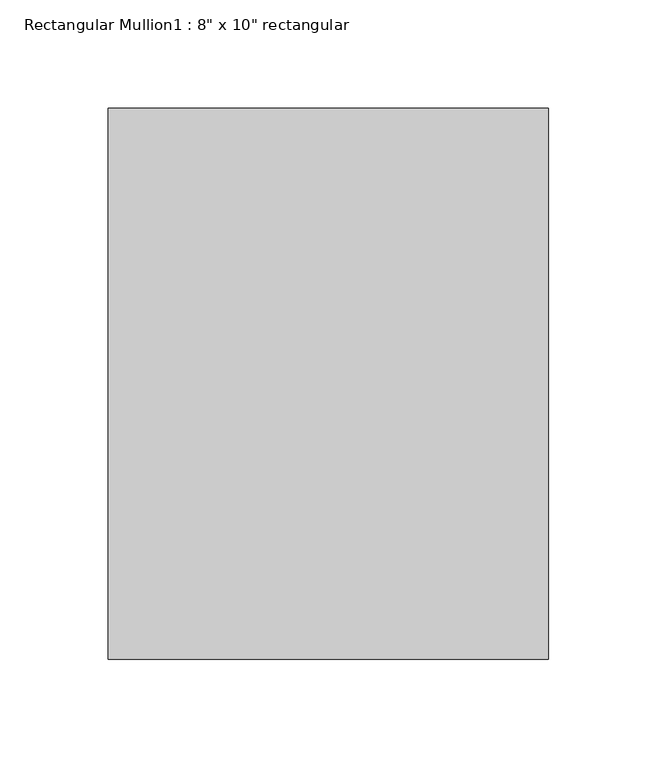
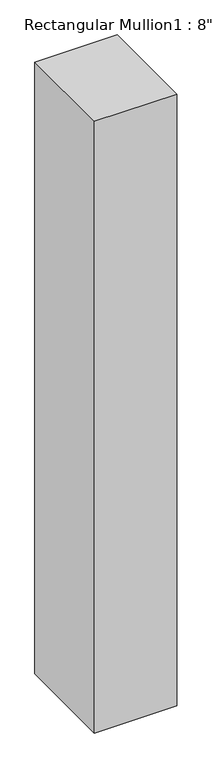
"""IFC4 building model written with IfcOpenShell, lengths in millimetres: member geometry."""

import ifcopenshell
import ifcopenshell.guid

model = None  # the IFC model being written
_history = None  # IfcOwnerHistory: only IFC2X3 demands one
_inside = {}  # id of a spatial element -> (the spatial element, [elements in it])
_under = {}  # id of a project, library or spatial element -> (it, [spatial elements below it])
_declared = {}  # id of a project -> (the project, [libraries it declares])
_typed = {}  # id of a type object -> (the type object, [elements of that type])
_made_of = {}  # id of a material, layer set ... -> (it, [elements and type objects made of it])


def new_model(schema):
    """Start an empty IFC model of exactly this schema.

    Asked for "IFC4X3", IfcOpenShell would pick the latest addendum, in which some entities
    have other attributes; the version numbers below select the first issue.
    IFC2X3 requires an IfcOwnerHistory on every rooted entity: one is made here for all.
    """
    global model, _history
    if schema == "IFC4X3":
        model = ifcopenshell.file(schema_version=(4, 3, 0, 0))
    else:
        model = ifcopenshell.file(schema=schema)
    _inside.clear()
    _under.clear()
    _declared.clear()
    _typed.clear()
    _made_of.clear()
    _history = None
    if model.schema == "IFC2X3":
        org = make("IfcOrganization", Name="unknown")
        user = make(
            "IfcPersonAndOrganization",
            ThePerson=make("IfcPerson", FamilyName="unknown"),
            TheOrganization=org,
        )
        app = make(
            "IfcApplication",
            ApplicationDeveloper=org,
            Version="unknown",
            ApplicationFullName="unknown",
            ApplicationIdentifier="unknown",
        )
        _history = make(
            "IfcOwnerHistory",
            OwningUser=user,
            OwningApplication=app,
            ChangeAction="ADDED",
            CreationDate=0,
        )
    return model


def make(cls, **values):
    """One entity of the class cls with the attributes given. An attribute that is None is left unset."""
    return model.create_entity(
        cls, **{name: value for name, value in values.items() if value is not None}
    )


def rooted(cls, **values):
    """An entity with a GlobalId (a new one), such as an element, a storey or a relation."""
    return make(cls, GlobalId=ifcopenshell.guid.new(), OwnerHistory=_history, **values)


def si_unit(unit_type, name, prefix=None):
    """IfcSIUnit, for example si_unit("LENGTHUNIT", "METRE", prefix="MILLI")."""
    return make("IfcSIUnit", UnitType=unit_type, Prefix=prefix, Name=name)


def assignment(units):
    """IfcUnitAssignment: the units of a project."""
    return None if units is None else make("IfcUnitAssignment", Units=units)


def point(xyz):
    """IfcCartesianPoint."""
    return None if xyz is None else make("IfcCartesianPoint", Coordinates=xyz)


def direction(xyz):
    """IfcDirection."""
    return None if xyz is None else make("IfcDirection", DirectionRatios=xyz)


def frame(location, z_axis=None, x_axis=None):
    """IfcAxis2Placement3D, a coordinate frame: its origin and axes. An axis left out is left unset."""
    return make(
        "IfcAxis2Placement3D",
        Location=point(location),
        Axis=direction(z_axis),
        RefDirection=direction(x_axis),
    )


def origin():
    """The frame at (0, 0, 0) with its axes left unset."""
    return frame((0.0, 0.0, 0.0))


def place(relative_to, where):
    """IfcLocalPlacement: puts the frame where relative to a parent placement (None: the world)."""
    return make(
        "IfcLocalPlacement", PlacementRelTo=relative_to, RelativePlacement=where
    )


def context(
    kind, dimensions, precision=None, world=None, true_north=None, identifier=None
):
    """IfcGeometricRepresentationContext, for example the 3D "Model" context."""
    return make(
        "IfcGeometricRepresentationContext",
        ContextIdentifier=identifier,
        ContextType=kind,
        CoordinateSpaceDimension=dimensions,
        Precision=precision,
        WorldCoordinateSystem=world,
        TrueNorth=true_north,
    )


def project(units=None, contexts=None):
    """IfcProject with its units and contexts."""
    return rooted(
        "IfcProject",
        Name="project",
        RepresentationContexts=contexts,
        UnitsInContext=assignment(units),
    )


def spatial(cls, under=None, at=None, **own):
    """A site, building, storey or space (cls), placed at a placement, below another one or the project."""
    s = rooted(cls, ObjectPlacement=at, **own)
    if under is not None:
        _under.setdefault(under.id(), (under, []))[1].append(s)
    return s


def polyline(points):
    """IfcPolyline through the points."""
    return make("IfcPolyline", Points=[point(p) for p in points])


def outline(outer, holes=None, kind="AREA"):
    """IfcArbitraryClosedProfileDef: a profile drawn as a closed curve; with holes, ...WithVoids."""
    if holes is None:
        return make("IfcArbitraryClosedProfileDef", ProfileType=kind, OuterCurve=outer)
    return make(
        "IfcArbitraryProfileDefWithVoids",
        ProfileType=kind,
        OuterCurve=outer,
        InnerCurves=holes,
    )


def extrude(swept, where, along, depth):
    """IfcExtrudedAreaSolid: the profile swept, set in the frame where, extruded along a direction by depth."""
    return make(
        "IfcExtrudedAreaSolid",
        SweptArea=swept,
        Position=where,
        ExtrudedDirection=direction(along),
        Depth=depth,
    )


def shape(context_of_items, identifier, shape_type, items):
    """IfcShapeRepresentation: the items that make up one representation, for example the "Body"."""
    return make(
        "IfcShapeRepresentation",
        ContextOfItems=context_of_items,
        RepresentationIdentifier=identifier,
        RepresentationType=shape_type,
        Items=items,
    )


def source(mapping_origin, context_of_items, identifier, shape_type, items):
    """IfcRepresentationMap: a shape defined once, which mapped items show again and again."""
    return make(
        "IfcRepresentationMap",
        MappingOrigin=mapping_origin,
        MappedRepresentation=shape(context_of_items, identifier, shape_type, items),
    )


def transform(
    local_origin,
    x_axis=None,
    y_axis=None,
    z_axis=None,
    scale=None,
    scale2=None,
    scale3=None,
    uniform=True,
):
    """IfcCartesianTransformationOperator3D, or its non-uniform kind. x_axis, y_axis, z_axis: its Axis1, 2, 3."""
    if uniform:
        return make(
            "IfcCartesianTransformationOperator3D",
            Axis1=direction(x_axis),
            Axis2=direction(y_axis),
            LocalOrigin=point(local_origin),
            Scale=scale,
            Axis3=direction(z_axis),
        )
    return make(
        "IfcCartesianTransformationOperator3DnonUniform",
        Axis1=direction(x_axis),
        Axis2=direction(y_axis),
        LocalOrigin=point(local_origin),
        Scale=scale,
        Axis3=direction(z_axis),
        Scale2=scale2,
        Scale3=scale3,
    )


def mapped(mapping_source, mapping_target):
    """IfcMappedItem: shows the shape of a source again, moved by a transform."""
    return make(
        "IfcMappedItem", MappingSource=mapping_source, MappingTarget=mapping_target
    )


def made_of(thing, what):
    """Note that an element or type object is made of a material, layer set ...; save() writes the relation."""
    if what is not None:
        _made_of.setdefault(what.id(), (what, []))[1].append(thing)
    return thing


def element(
    cls,
    number,
    at=None,
    inside=None,
    cuts=None,
    type_object=None,
    material=None,
    context=None,
    identifier="Body",
    shape_type=None,
    held_by="IfcProductDefinitionShape",
    body=None,
    shapes=None,
    **own,
):
    """One element of the class cls, such as IfcWall. Its Tag is "e" and its number.

    at: its placement. inside: the storey or other place that contains it. cuts: it is an
    opening in that element (IfcRelVoidsElement). A single representation is given by context,
    identifier, shape_type and body (its items); several are given by shapes. held_by: the class
    of the entity that holds the representations. save() writes the other relations.
    """
    e = rooted(cls, Tag="e%d" % number, ObjectPlacement=at, **own)
    if body is not None:
        shapes = [shape(context, identifier, shape_type, body)]
    if shapes is not None:
        e.Representation = make(held_by, Representations=shapes)
    if inside is not None:
        _inside.setdefault(inside.id(), (inside, []))[1].append(e)
    if cuts is not None:
        rooted(
            "IfcRelVoidsElement", RelatingBuildingElement=cuts, RelatedOpeningElement=e
        )
    if type_object is not None:
        _typed.setdefault(type_object.id(), (type_object, []))[1].append(e)
    return made_of(e, material)


def aggregate(whole, parts):
    """IfcRelAggregates: a whole, such as a stair, and the parts it consists of."""
    return rooted("IfcRelAggregates", RelatingObject=whole, RelatedObjects=parts)


def save(model, path):
    """Write the relations noted so far, then the file.

    IfcRelAggregates (storeys below a building ...), IfcRelContainedInSpatialStructure (elements
    in a storey), IfcRelDefinesByType, IfcRelAssociatesMaterial and IfcRelDeclares: one each for
    every whole, place, type object, material and project.
    """
    for whole, parts in _under.values():
        aggregate(whole, parts)
    for where, things in _inside.values():
        rooted(
            "IfcRelContainedInSpatialStructure",
            RelatedElements=things,
            RelatingStructure=where,
        )
    for kind, things in _typed.values():
        rooted("IfcRelDefinesByType", RelatedObjects=things, RelatingType=kind)
    for what, things in _made_of.values():
        rooted("IfcRelAssociatesMaterial", RelatedObjects=things, RelatingMaterial=what)
    for by, libraries in _declared.values():
        rooted("IfcRelDeclares", RelatingContext=by, RelatedDefinitions=libraries)
    model.write(path)


def member_b2bf14c7(model_context):
    return source(origin(), model_context, "Body", "SweptSolid", [
        extrude(outline(polyline([(101.6, 127.0), (101.6, -127.0), (-101.6, -127.0), (-101.6, 127.0), (101.6, 127.0)])), frame((0.0, 0.0, -1593.8500097), z_axis=(0.0, 0.0, 1.0), x_axis=(1.0, 0.0, 0.0)), (0.0, 0.0, 1.0), 1593.8500097),
    ])


if __name__ == "__main__":
    model = new_model("IFC4")
    model_context = context("Model", 3, world=origin())
    ifc_project = project(units=[si_unit("LENGTHUNIT", "METRE", prefix="MILLI")], contexts=[model_context])
    site = spatial("IfcSite", under=ifc_project)
    building = spatial("IfcBuilding", under=site)
    placement = place(None, origin())
    member_shape = member_b2bf14c7(model_context)
    element("IfcMember", 1, ObjectType="Rectangular Mullion1 : 8\" x 10\" rectangular", at=placement, inside=building, context=model_context, shape_type="MappedRepresentation", body=[
        mapped(member_shape, transform((0.0, 0.0, 0.0), x_axis=(1.0, 0.0, 0.0), y_axis=(0.0, 1.0, 0.0), z_axis=(0.0, 0.0, 1.0))),
    ])
    save(model, "model.ifc")
